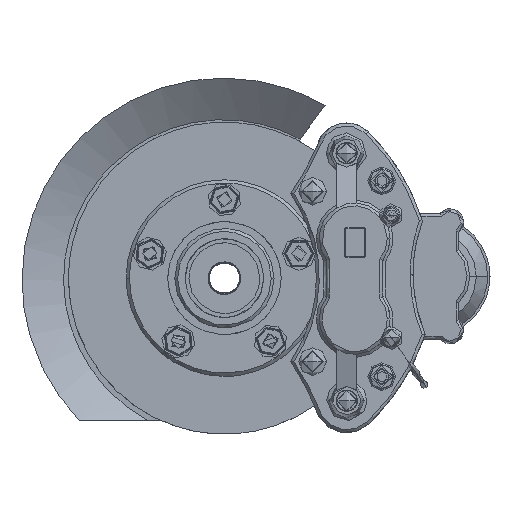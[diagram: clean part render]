
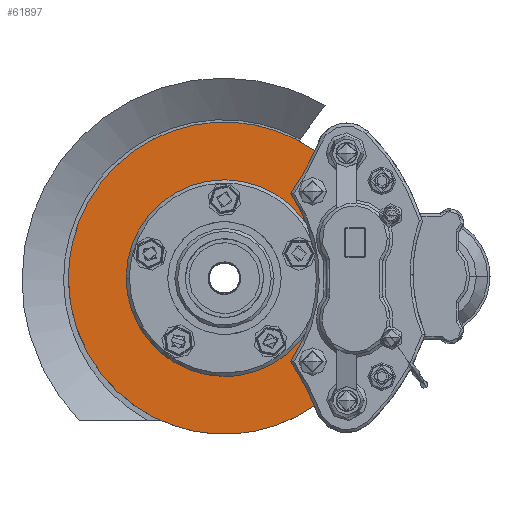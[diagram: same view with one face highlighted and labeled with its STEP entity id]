
A CAD part, top view. The second image highlights one B-rep face of the part: STEP entity #61897.
In plain terms, the highlighted free-form (B-spline) face has degree [1, 1] with [2, 2] control points.
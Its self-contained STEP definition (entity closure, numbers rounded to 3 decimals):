
#55917=CARTESIAN_POINT('',(-139.7,0.,0.0));
#55918=VERTEX_POINT('',#55917);
#55924=CARTESIAN_POINT('',(139.7,0.0,0.0));
#55925=VERTEX_POINT('',#55924);
#55926=CARTESIAN_POINT('',(139.7,0.0,0.0));
#55927=CARTESIAN_POINT('',(139.7,139.7,0.0));
#55928=CARTESIAN_POINT('',(0.,139.7,0.0));
#55929=CARTESIAN_POINT('',(-139.7,139.7,0.0));
#55930=CARTESIAN_POINT('',(-139.7,0.,0.0));
#55931=CARTESIAN_POINT('',(-139.7,-139.7,0.0));
#55932=CARTESIAN_POINT('',(0.,-139.7,0.0));
#55933=CARTESIAN_POINT('',(139.7,-139.7,0.0));
#55934=CARTESIAN_POINT('',(139.7,0.0,0.0));
#55935=(BOUNDED_CURVE()
B_SPLINE_CURVE(2,(#55926,#55927,#55928,#55929,#55930,#55931,#55932,#55933,#55934),.UNSPECIFIED.,.T.,.F.)
B_SPLINE_CURVE_WITH_KNOTS((3,2,2,2,3),(0.0,1.571,3.142,4.712,6.283),.UNSPECIFIED.)
CURVE()
GEOMETRIC_REPRESENTATION_ITEM()
RATIONAL_B_SPLINE_CURVE((1.0,0.707,1.0,0.707,1.0,0.707,1.0,0.707,1.0))
REPRESENTATION_ITEM(''));
#55936=EDGE_CURVE('',#55925,#55918,#55935,.T.);
#55969=CARTESIAN_POINT('',(139.7,0.0,0.0));
#55970=CARTESIAN_POINT('',(139.7,139.7,0.0));
#55971=CARTESIAN_POINT('',(0.,139.7,0.0));
#55972=CARTESIAN_POINT('',(-139.7,139.7,0.0));
#55973=CARTESIAN_POINT('',(-139.7,0.,0.0));
#55974=CARTESIAN_POINT('',(-139.7,-139.7,0.0));
#55975=CARTESIAN_POINT('',(0.,-139.7,0.0));
#55976=CARTESIAN_POINT('',(139.7,-139.7,0.0));
#55977=CARTESIAN_POINT('',(139.7,0.0,0.0));
#55978=(BOUNDED_CURVE()
B_SPLINE_CURVE(2,(#55969,#55970,#55971,#55972,#55973,#55974,#55975,#55976,#55977),.UNSPECIFIED.,.T.,.F.)
B_SPLINE_CURVE_WITH_KNOTS((3,2,2,2,3),(0.0,1.571,3.142,4.712,6.283),.UNSPECIFIED.)
CURVE()
GEOMETRIC_REPRESENTATION_ITEM()
RATIONAL_B_SPLINE_CURVE((1.0,0.707,1.0,0.707,1.0,0.707,1.0,0.707,1.0))
REPRESENTATION_ITEM(''));
#55979=EDGE_CURVE('',#55918,#55925,#55978,.T.);
#61817=CARTESIAN_POINT('',(88.0,0.0,0.0));
#61818=VERTEX_POINT('',#61817);
#61825=CARTESIAN_POINT('',(-88.0,0.,0.0));
#61826=VERTEX_POINT('',#61825);
#61832=CARTESIAN_POINT('',(88.0,0.0,0.0));
#61833=CARTESIAN_POINT('',(88.0,-88.0,0.0));
#61834=CARTESIAN_POINT('',(0.,-88.0,0.0));
#61835=CARTESIAN_POINT('',(-88.0,-88.0,0.0));
#61836=CARTESIAN_POINT('',(-88.0,0.,0.0));
#61837=CARTESIAN_POINT('',(-88.0,88.0,0.0));
#61838=CARTESIAN_POINT('',(0.,88.0,0.0));
#61839=CARTESIAN_POINT('',(88.0,88.0,0.0));
#61840=CARTESIAN_POINT('',(88.0,0.0,0.0));
#61841=(BOUNDED_CURVE()
B_SPLINE_CURVE(2,(#61832,#61833,#61834,#61835,#61836,#61837,#61838,#61839,#61840),.UNSPECIFIED.,.T.,.F.)
B_SPLINE_CURVE_WITH_KNOTS((3,2,2,2,3),(0.0,1.571,3.142,4.712,6.283),.UNSPECIFIED.)
CURVE()
GEOMETRIC_REPRESENTATION_ITEM()
RATIONAL_B_SPLINE_CURVE((1.0,0.707,1.0,0.707,1.0,0.707,1.0,0.707,1.0))
REPRESENTATION_ITEM(''));
#61842=EDGE_CURVE('',#61818,#61826,#61841,.T.);
#61867=CARTESIAN_POINT('',(88.0,0.0,0.0));
#61868=CARTESIAN_POINT('',(88.0,-88.0,0.0));
#61869=CARTESIAN_POINT('',(0.,-88.0,0.0));
#61870=CARTESIAN_POINT('',(-88.0,-88.0,0.0));
#61871=CARTESIAN_POINT('',(-88.0,0.,0.0));
#61872=CARTESIAN_POINT('',(-88.0,88.0,0.0));
#61873=CARTESIAN_POINT('',(0.,88.0,0.0));
#61874=CARTESIAN_POINT('',(88.0,88.0,0.0));
#61875=CARTESIAN_POINT('',(88.0,0.0,0.0));
#61876=(BOUNDED_CURVE()
B_SPLINE_CURVE(2,(#61867,#61868,#61869,#61870,#61871,#61872,#61873,#61874,#61875),.UNSPECIFIED.,.T.,.F.)
B_SPLINE_CURVE_WITH_KNOTS((3,2,2,2,3),(0.0,1.571,3.142,4.712,6.283),.UNSPECIFIED.)
CURVE()
GEOMETRIC_REPRESENTATION_ITEM()
RATIONAL_B_SPLINE_CURVE((1.0,0.707,1.0,0.707,1.0,0.707,1.0,0.707,1.0))
REPRESENTATION_ITEM(''));
#61877=EDGE_CURVE('',#61826,#61818,#61876,.T.);
#61884=CARTESIAN_POINT('',(-167.64,-167.64,0.0));
#61885=CARTESIAN_POINT('',(-167.64,167.64,0.0));
#61886=CARTESIAN_POINT('',(167.64,-167.64,0.0));
#61887=CARTESIAN_POINT('',(167.64,167.64,0.0));
#61888=B_SPLINE_SURFACE_WITH_KNOTS('',1,1,((#61884,#61885),(#61886,#61887)),.UNSPECIFIED.,.F.,.F.,.U.,(2,2),(2,2),(-0.168,0.168),(-0.168,0.168),.UNSPECIFIED.);
#61889=ORIENTED_EDGE('',*,*,#55936,.T.);
#61890=ORIENTED_EDGE('',*,*,#55979,.T.);
#61891=EDGE_LOOP('',(#61889,#61890));
#61892=FACE_BOUND('',#61891,.T.);
#61893=ORIENTED_EDGE('',*,*,#61842,.T.);
#61894=ORIENTED_EDGE('',*,*,#61877,.T.);
#61895=EDGE_LOOP('',(#61893,#61894));
#61896=FACE_BOUND('',#61895,.T.);
#61897=ADVANCED_FACE('',(#61892,#61896),#61888,.T.);
